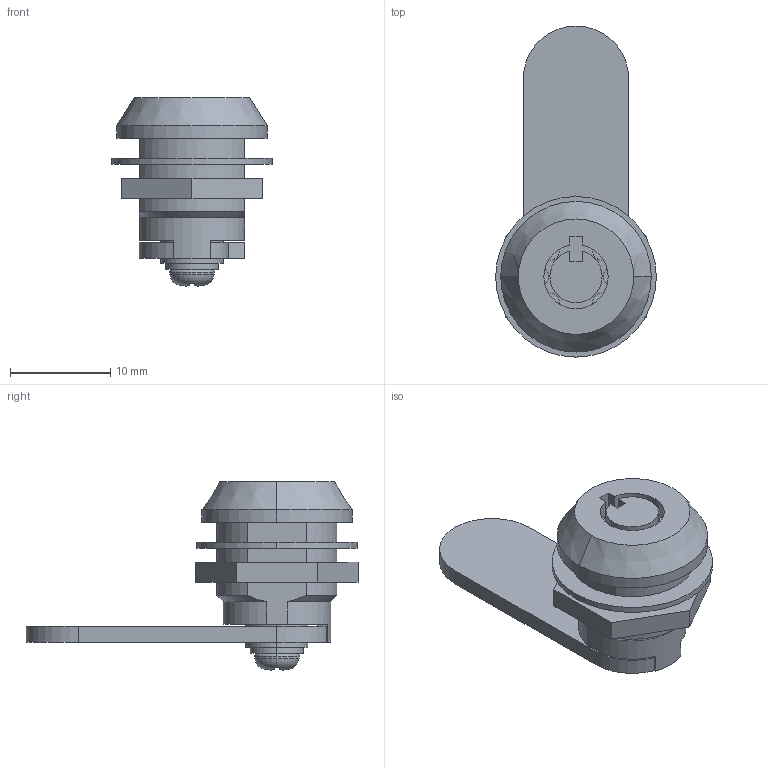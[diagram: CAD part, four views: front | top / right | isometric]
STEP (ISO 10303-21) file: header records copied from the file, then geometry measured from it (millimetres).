
FILE_DESCRIPTION (( 'STEP AP214' ), '1' );
FILE_NAME ('EL-332-1-R.STEP', '2016-01-28T08:59:22', ( '' ), ( '' ), 'SwSTEP 2.0', 'SolidWorks 2012', '' );
FILE_SCHEMA (( 'AUTOMOTIVE_DESIGN' ));
Length unit declared in the file: millimetre
Products named in the file (7): ワッシャー; ナットM12; なべねじM2.6; ばね座金M2.6; EL-332-1B; EL-332-1A; EL-332-1-R
Assembly tree (6 placements, depth 2):
  EL-332-1-R
    EL-332-1A
    EL-332-1B
    ばね座金M2.6
    なべねじM2.6
    ナットM12
    ワッシャー
Bounding box: 16 x 33.08 x 18.76 mm (x, y, z)
Volume: 2356.3 mm3; surface area: 2513.8 mm2
Topology: 12 solids, 12 shells, 141 faces, 322 edges, 210 vertices
Faces by surface type: plane 73, cylinder 46, cone 10, torus 8, sphere 4
Entity records: 4382 total; most frequent: CARTESIAN_POINT 756, DIRECTION 740, ORIENTED_EDGE 644, EDGE_CURVE 322, AXIS2_PLACEMENT_3D 290, VERTEX_POINT 210, LINE 160, VECTOR 160
